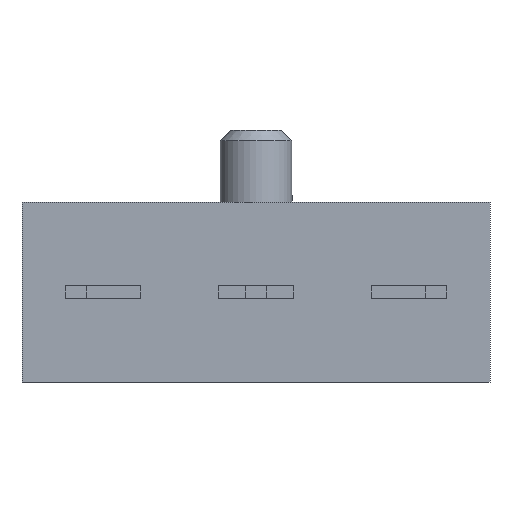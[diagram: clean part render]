
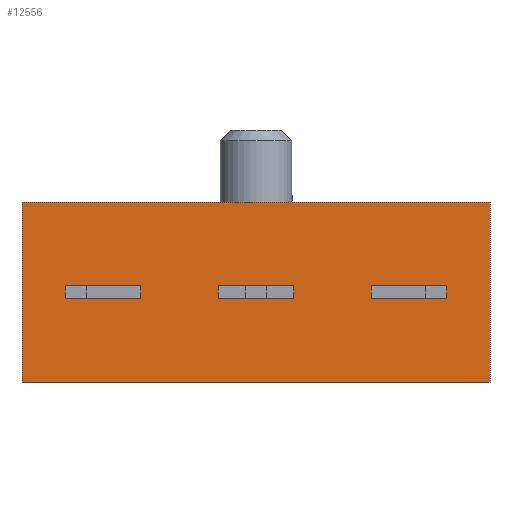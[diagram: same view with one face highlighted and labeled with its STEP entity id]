
A CAD part, front view. The second image highlights one B-rep face of the part: STEP entity #12556.
In plain terms, the highlighted planar face has unit normal (0, -1, 0).
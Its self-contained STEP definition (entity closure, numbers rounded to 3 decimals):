
#37 = DIRECTION ( 'NONE',  ( 0., 0., -1. ) ) ;
#38 = VECTOR ( 'NONE', #37, 1000. ) ;
#39 = CARTESIAN_POINT ( 'NONE',  ( -1., 0., 0. ) ) ;
#40 = LINE ( 'NONE', #39, #38 ) ;
#45 = CARTESIAN_POINT ( 'NONE',  ( -1., 0., 0.175 ) ) ;
#136 = LINE ( 'NONE', #187, #186 ) ;
#184 = LINE ( 'NONE', #207, #206 ) ;
#185 = DIRECTION ( 'NONE',  ( -1., 0., 0. ) ) ;
#186 = VECTOR ( 'NONE', #185, 1000. ) ;
#187 = CARTESIAN_POINT ( 'NONE',  ( 0., 0., -2.5 ) ) ;
#205 = DIRECTION ( 'NONE',  ( -1., 0., 0. ) ) ;
#206 = VECTOR ( 'NONE', #205, 1000. ) ;
#207 = CARTESIAN_POINT ( 'NONE',  ( 0., 0., 2.5 ) ) ;
#463 = DIRECTION ( 'NONE',  ( 0., 0., 1. ) ) ;
#464 = DIRECTION ( 'NONE',  ( 0., 1., 0. ) ) ;
#465 = CARTESIAN_POINT ( 'NONE',  ( -6.5, 0., -2.5 ) ) ;
#466 = AXIS2_PLACEMENT_3D ( 'NONE', #465, #464, #463 ) ;
#474 = FACE_BOUND ( 'NONE', #12574, .T. ) ;
#544 = PLANE ( 'NONE',  #466 ) ;
#545 = FACE_OUTER_BOUND ( 'NONE', #12552, .T. ) ;
#546 = FACE_BOUND ( 'NONE', #12487, .T. ) ;
#547 = FACE_BOUND ( 'NONE', #12464, .T. ) ;
#953 = DIRECTION ( 'NONE',  ( 0., 0., -1. ) ) ;
#1196 = VECTOR ( 'NONE', #953, 1000. ) ;
#1197 = CARTESIAN_POINT ( 'NONE',  ( 5.3, 0., 0. ) ) ;
#1198 = LINE ( 'NONE', #1197, #1196 ) ;
#1203 = CARTESIAN_POINT ( 'NONE',  ( 5.3, 0., -0.175 ) ) ;
#1338 = CARTESIAN_POINT ( 'NONE',  ( 6.5, 0., -2.5 ) ) ;
#1888 = VECTOR ( 'NONE', #1926, 1000. ) ;
#1889 = CARTESIAN_POINT ( 'NONE',  ( -3.25, 0., 0. ) ) ;
#1890 = LINE ( 'NONE', #1889, #1888 ) ;
#1892 = CARTESIAN_POINT ( 'NONE',  ( 1., 0., 0.175 ) ) ;
#1926 = DIRECTION ( 'NONE',  ( 0., 0., 1. ) ) ;
#2326 = CARTESIAN_POINT ( 'NONE',  ( 5.3, 0., 0.175 ) ) ;
#2627 = DIRECTION ( 'NONE',  ( 1., 0., 0. ) ) ;
#2628 = VECTOR ( 'NONE', #2627, 1000. ) ;
#2629 = CARTESIAN_POINT ( 'NONE',  ( 0., 0., -0.175 ) ) ;
#2630 = LINE ( 'NONE', #2629, #2628 ) ;
#2712 = CARTESIAN_POINT ( 'NONE',  ( 1., 0., -0.175 ) ) ;
#2757 = CARTESIAN_POINT ( 'NONE',  ( -1., 0., -0.175 ) ) ;
#2776 = DIRECTION ( 'NONE',  ( 1., 0., 0. ) ) ;
#2777 = VECTOR ( 'NONE', #2776, 1000. ) ;
#2778 = CARTESIAN_POINT ( 'NONE',  ( 0., 0., -0.175 ) ) ;
#2779 = LINE ( 'NONE', #2778, #2777 ) ;
#2827 = CARTESIAN_POINT ( 'NONE',  ( -3.25, 0., -0.175 ) ) ;
#2885 = DIRECTION ( 'NONE',  ( 0., 0., -1. ) ) ;
#2886 = VECTOR ( 'NONE', #2885, 1000. ) ;
#2887 = CARTESIAN_POINT ( 'NONE',  ( 6.5, 0., 0. ) ) ;
#2917 = CARTESIAN_POINT ( 'NONE',  ( 6.5, 0., 2.5 ) ) ;
#2988 = LINE ( 'NONE', #2887, #2886 ) ;
#3075 = DIRECTION ( 'NONE',  ( -1., 0., 0. ) ) ;
#3077 = VECTOR ( 'NONE', #3075, 1000. ) ;
#3079 = CARTESIAN_POINT ( 'NONE',  ( 0., 0., 0.175 ) ) ;
#3080 = LINE ( 'NONE', #3079, #3077 ) ;
#3146 = DIRECTION ( 'NONE',  ( 0., 0., 1. ) ) ;
#3147 = VECTOR ( 'NONE', #3146, 1000. ) ;
#3148 = CARTESIAN_POINT ( 'NONE',  ( -5.3, 0., 0. ) ) ;
#3149 = LINE ( 'NONE', #3148, #3147 ) ;
#3155 = CARTESIAN_POINT ( 'NONE',  ( -5.3, 0., 0.175 ) ) ;
#3167 = CARTESIAN_POINT ( 'NONE',  ( -5.3, 0., -0.175 ) ) ;
#9310 = DIRECTION ( 'NONE',  ( 0., 0., 1. ) ) ;
#9311 = VECTOR ( 'NONE', #9310, 1000. ) ;
#9312 = CARTESIAN_POINT ( 'NONE',  ( 1., 0., 0. ) ) ;
#9313 = LINE ( 'NONE', #9312, #9311 ) ;
#10562 = CARTESIAN_POINT ( 'NONE',  ( 3.25, 0., 0.175 ) ) ;
#10564 = CARTESIAN_POINT ( 'NONE',  ( -3.25, 0., 0.175 ) ) ;
#10843 = LINE ( 'NONE', #10877, #10876 ) ;
#10861 = VECTOR ( 'NONE', #10881, 1000. ) ;
#10862 = CARTESIAN_POINT ( 'NONE',  ( 0., 0., 0.175 ) ) ;
#10863 = LINE ( 'NONE', #10862, #10861 ) ;
#10869 = CARTESIAN_POINT ( 'NONE',  ( -6.5, 0., -2.5 ) ) ;
#10875 = DIRECTION ( 'NONE',  ( -1., 0., 0. ) ) ;
#10876 = VECTOR ( 'NONE', #10875, 1000. ) ;
#10877 = CARTESIAN_POINT ( 'NONE',  ( 0., 0., 0.175 ) ) ;
#10881 = DIRECTION ( 'NONE',  ( -1., 0., 0. ) ) ;
#11052 = CARTESIAN_POINT ( 'NONE',  ( 3.25, 0., -0.175 ) ) ;
#11244 = DIRECTION ( 'NONE',  ( 0., 0., -1. ) ) ;
#11246 = VECTOR ( 'NONE', #11244, 1000. ) ;
#11247 = CARTESIAN_POINT ( 'NONE',  ( 3.25, 0., 0. ) ) ;
#11248 = LINE ( 'NONE', #11247, #11246 ) ;
#11398 = EDGE_CURVE ( 'NONE', #11961, #11799, #9313, .T. ) ;
#11410 = VERTEX_POINT ( 'NONE', #3167 ) ;
#11415 = VERTEX_POINT ( 'NONE', #3155 ) ;
#11417 = EDGE_CURVE ( 'NONE', #11410, #11415, #3149, .T. ) ;
#11589 = VERTEX_POINT ( 'NONE', #1203 ) ;
#11591 = EDGE_CURVE ( 'NONE', #11684, #11589, #1198, .T. ) ;
#11684 = VERTEX_POINT ( 'NONE', #2326 ) ;
#11713 = VERTEX_POINT ( 'NONE', #2827 ) ;
#11716 = EDGE_CURVE ( 'NONE', #12110, #11415, #3080, .T. ) ;
#11721 = VERTEX_POINT ( 'NONE', #2917 ) ;
#11733 = EDGE_CURVE ( 'NONE', #11721, #11740, #2988, .T. ) ;
#11740 = VERTEX_POINT ( 'NONE', #1338 ) ;
#11799 = VERTEX_POINT ( 'NONE', #1892 ) ;
#11803 = EDGE_CURVE ( 'NONE', #11713, #12110, #1890, .T. ) ;
#11961 = VERTEX_POINT ( 'NONE', #2712 ) ;
#11966 = EDGE_CURVE ( 'NONE', #11410, #11713, #2630, .T. ) ;
#11993 = VERTEX_POINT ( 'NONE', #2757 ) ;
#12012 = EDGE_CURVE ( 'NONE', #11993, #11961, #2779, .T. ) ;
#12110 = VERTEX_POINT ( 'NONE', #10564 ) ;
#12120 = VERTEX_POINT ( 'NONE', #10562 ) ;
#12138 = VERTEX_POINT ( 'NONE', #10869 ) ;
#12141 = EDGE_CURVE ( 'NONE', #11799, #12258, #10863, .T. ) ;
#12145 = EDGE_CURVE ( 'NONE', #11684, #12120, #10843, .T. ) ;
#12153 = VERTEX_POINT ( 'NONE', #11052 ) ;
#12157 = EDGE_CURVE ( 'NONE', #12120, #12153, #11248, .T. ) ;
#12203 = EDGE_CURVE ( 'NONE', #12138, #12204, #16988, .T. ) ;
#12204 = VERTEX_POINT ( 'NONE', #17014 ) ;
#12208 = EDGE_CURVE ( 'NONE', #12153, #11589, #17013, .T. ) ;
#12258 = VERTEX_POINT ( 'NONE', #45 ) ;
#12260 = EDGE_CURVE ( 'NONE', #12258, #11993, #40, .T. ) ;
#12345 = EDGE_CURVE ( 'NONE', #11740, #12138, #136, .T. ) ;
#12346 = ORIENTED_EDGE ( 'NONE', *, *, #11733, .F. ) ;
#12347 = ORIENTED_EDGE ( 'NONE', *, *, #12349, .T. ) ;
#12349 = EDGE_CURVE ( 'NONE', #11721, #12204, #184, .T. ) ;
#12351 = ORIENTED_EDGE ( 'NONE', *, *, #12203, .F. ) ;
#12464 = EDGE_LOOP ( 'NONE', ( #12465, #12466, #12485, #12486 ) ) ;
#12465 = ORIENTED_EDGE ( 'NONE', *, *, #11398, .F. ) ;
#12466 = ORIENTED_EDGE ( 'NONE', *, *, #12012, .F. ) ;
#12472 = ORIENTED_EDGE ( 'NONE', *, *, #12157, .F. ) ;
#12485 = ORIENTED_EDGE ( 'NONE', *, *, #12260, .F. ) ;
#12486 = ORIENTED_EDGE ( 'NONE', *, *, #12141, .F. ) ;
#12487 = EDGE_LOOP ( 'NONE', ( #12575, #12576, #12577, #12578 ) ) ;
#12552 = EDGE_LOOP ( 'NONE', ( #12553, #12346, #12347, #12351 ) ) ;
#12553 = ORIENTED_EDGE ( 'NONE', *, *, #12345, .F. ) ;
#12556 = ADVANCED_FACE ( 'NONE', ( #474, #547, #546, #545 ), #544, .F. ) ;
#12557 = ORIENTED_EDGE ( 'NONE', *, *, #12208, .F. ) ;
#12568 = ORIENTED_EDGE ( 'NONE', *, *, #12145, .F. ) ;
#12569 = ORIENTED_EDGE ( 'NONE', *, *, #11591, .T. ) ;
#12574 = EDGE_LOOP ( 'NONE', ( #12557, #12472, #12568, #12569 ) ) ;
#12575 = ORIENTED_EDGE ( 'NONE', *, *, #11716, .F. ) ;
#12576 = ORIENTED_EDGE ( 'NONE', *, *, #11803, .F. ) ;
#12577 = ORIENTED_EDGE ( 'NONE', *, *, #11966, .F. ) ;
#12578 = ORIENTED_EDGE ( 'NONE', *, *, #11417, .T. ) ;
#16988 = LINE ( 'NONE', #17017, #17016 ) ;
#17010 = DIRECTION ( 'NONE',  ( 1., 0., 0. ) ) ;
#17011 = VECTOR ( 'NONE', #17010, 1000. ) ;
#17012 = CARTESIAN_POINT ( 'NONE',  ( 0., 0., -0.175 ) ) ;
#17013 = LINE ( 'NONE', #17012, #17011 ) ;
#17014 = CARTESIAN_POINT ( 'NONE',  ( -6.5, 0., 2.5 ) ) ;
#17015 = DIRECTION ( 'NONE',  ( 0., 0., 1. ) ) ;
#17016 = VECTOR ( 'NONE', #17015, 1000. ) ;
#17017 = CARTESIAN_POINT ( 'NONE',  ( -6.5, 0., 0. ) ) ;
